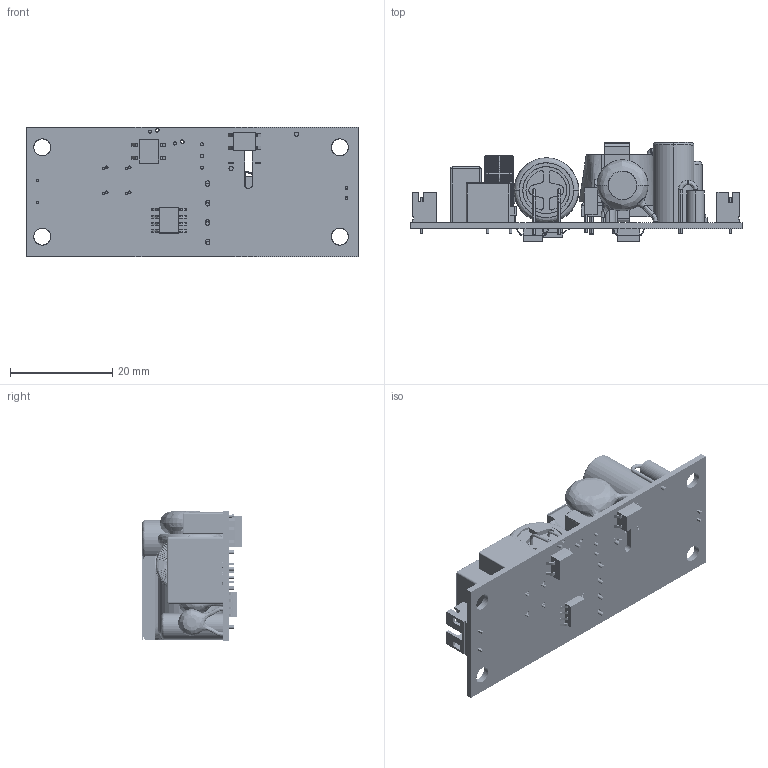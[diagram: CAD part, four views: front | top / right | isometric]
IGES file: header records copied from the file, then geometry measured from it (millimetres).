
Start section: SolidWorks IGES file using analytic representation for surfaces
Global section: file name: J:\CAD Library\SOLID MODEL LIBRARY\POWER SUPPLY\XP\ECL\ECL05-10-T-981020.IGS; native system: SolidWorks 2011; preprocessor: SolidWorks 2011; author: rmassa; date: 110304.075040; units: millimetre
Bounding box: 65 x 19.4 x 25.4 mm (x, y, z)
Surface area: 11971.1 mm2 (no closed solid volume)
Topology: 0 solids, 0 shells, 2312 faces, 18286 edges, 18275 vertices
Faces by surface type: bspline 1355, revolution 957
